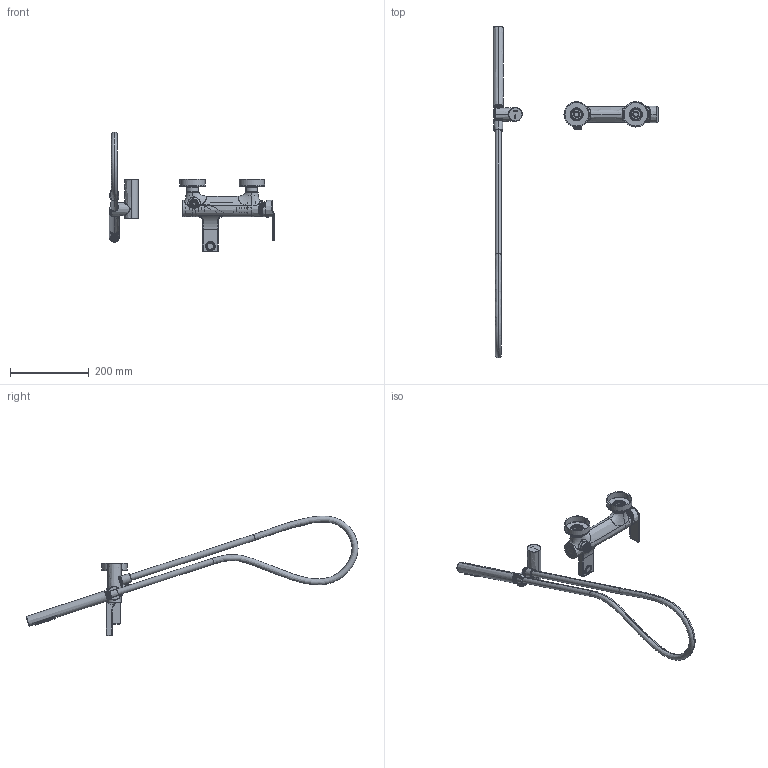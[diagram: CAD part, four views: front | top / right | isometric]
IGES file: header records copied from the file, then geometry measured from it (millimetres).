
Start section:  PTC IGES file: 3d_sw0001.igs
Global section: file name: 3d_sw0001.igs; native system: Creo Parametric by PTC Inc.; preprocessor: 2022014; author: volponeff; organization: Unknown; date: 20240220.113014; units: millimetre
Bounding box: 419.35 x 840.6 x 303.71 mm (x, y, z)
Surface area: 307218.2 mm2 (no closed solid volume)
Topology: 0 solids, 0 shells, 2280 faces, 11494 edges, 11481 vertices
Faces by surface type: revolution 1435, bspline 833, extrusion 12
